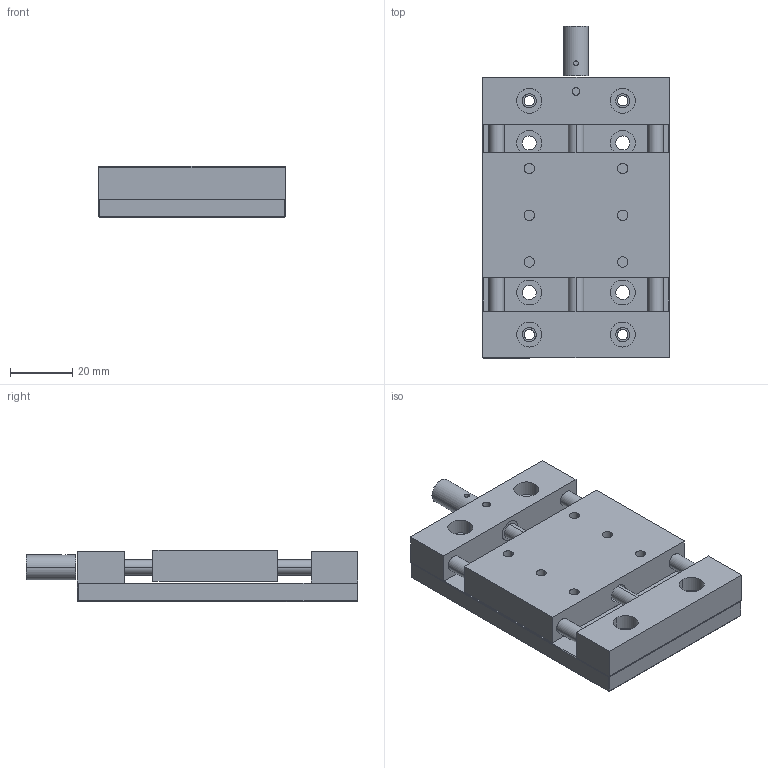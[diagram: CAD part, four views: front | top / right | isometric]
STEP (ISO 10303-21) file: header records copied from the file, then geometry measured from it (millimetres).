
FILE_DESCRIPTION (( 'STEP AP214' ), '1' );
FILE_NAME ('PT-SS20.STEP', '2022-08-27T03:36:37', ( '' ), ( '' ), 'SwSTEP 2.0', 'SolidWorks 2017', '' );
FILE_SCHEMA (( 'AUTOMOTIVE_DESIGN' ));
Length unit declared in the file: millimetre
Products named in the file (1): PT-SS20
Bounding box: 60 x 106.5 x 16.5 mm (x, y, z)
Surface area: 31886.3 mm2 (no closed solid volume)
Topology: 0 solids, 10 shells, 136 faces, 415 edges, 294 vertices
Faces by surface type: cylinder 84, plane 48, cone 4
Entity records: 6997 total; most frequent: CARTESIAN_POINT 3166, DIRECTION 805, ORIENTED_EDGE 686, EDGE_CURVE 415, AXIS2_PLACEMENT_3D 315, VERTEX_POINT 294, EDGE_LOOP 209, CIRCLE 178
